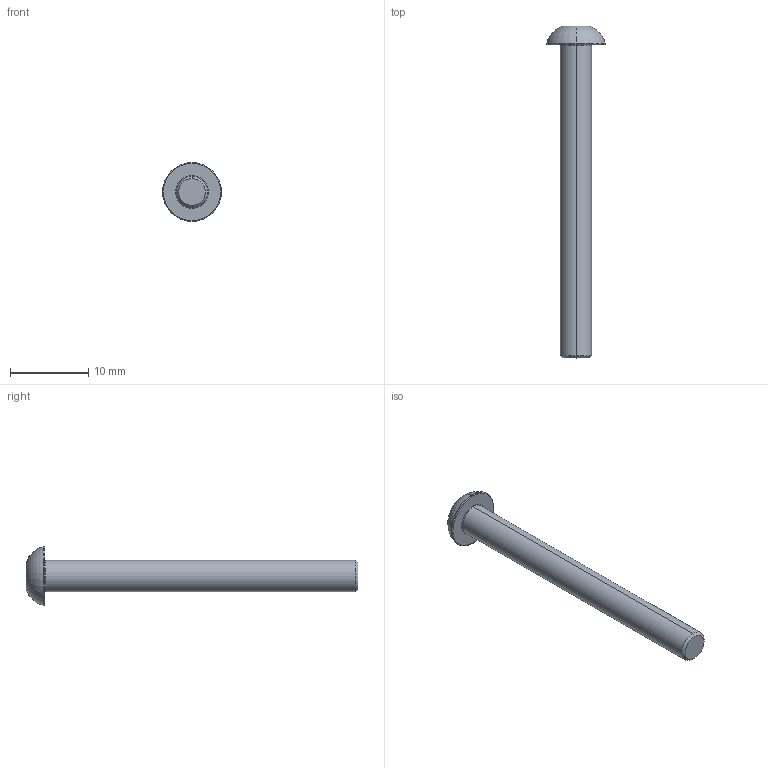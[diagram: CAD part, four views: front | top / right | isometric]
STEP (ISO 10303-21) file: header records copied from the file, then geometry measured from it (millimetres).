
FILE_DESCRIPTION (( 'STEP AP203' ), '1' );
FILE_NAME ('LGDD-304-M4x40.STEP', '2026-08-08T03:23:06', ( '' ), ( '' ), 'SwSTEP 2.0', 'SolidWorks 2020', '' );
FILE_SCHEMA (( 'CONFIG_CONTROL_DESIGN' ));
Length unit declared in the file: millimetre
Products named in the file (1): LGDD-304-M4x40
Bounding box: 7.5 x 42.4 x 7.5 mm (x, y, z)
Volume: 569.3 mm3; surface area: 628.4 mm2
Topology: 1 solids, 1 shells, 31 faces, 59 edges, 32 vertices
Faces by surface type: plane 10, cone 9, torus 8, cylinder 4
Entity records: 864 total; most frequent: CARTESIAN_POINT 154, DIRECTION 149, ORIENTED_EDGE 118, AXIS2_PLACEMENT_3D 65, EDGE_CURVE 59, EDGE_LOOP 33, CIRCLE 33, VERTEX_POINT 32
